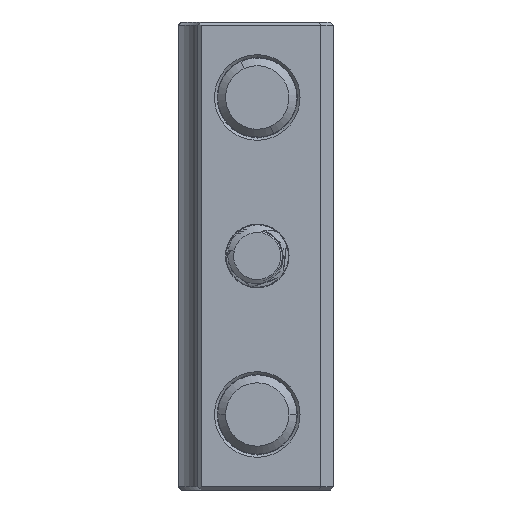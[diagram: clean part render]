
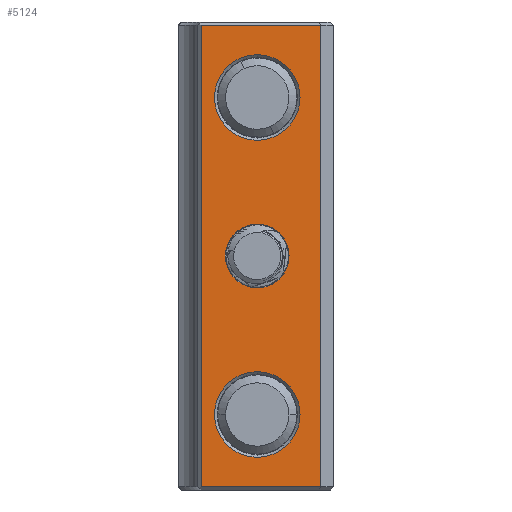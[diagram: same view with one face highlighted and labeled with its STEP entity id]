
A CAD part, left-side view. The second image highlights one B-rep face of the part: STEP entity #5124.
In plain terms, the highlighted planar face has unit normal (-1, 0, 0) as drawn and (1, 0, 0) by its records, which use the part's own axes.
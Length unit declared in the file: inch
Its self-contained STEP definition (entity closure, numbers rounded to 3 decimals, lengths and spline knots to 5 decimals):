
#494 = VECTOR ( 'NONE', #14407, 39.37008 ) ;
#523 = EDGE_CURVE ( 'NONE', #28910, #18502, #25480, .T. ) ;
#605 = VECTOR ( 'NONE', #9727, 39.37008 ) ;
#854 = DIRECTION ( 'NONE',  ( 1., 0., 0. ) ) ;
#1156 = DIRECTION ( 'NONE',  ( 0., 0., -1. ) ) ;
#1348 = LINE ( 'NONE', #5496, #7602 ) ;
#1399 = CARTESIAN_POINT ( 'NONE',  ( 0.98425, 0.48, 0.74638 ) ) ;
#1702 = EDGE_CURVE ( 'NONE', #19867, #27521, #25302, .T. ) ;
#1824 = EDGE_CURVE ( 'NONE', #27521, #19867, #11097, .T. ) ;
#1951 = AXIS2_PLACEMENT_3D ( 'NONE', #13883, #3046, #7050 ) ;
#2411 = DIRECTION ( 'NONE',  ( 1., 0., 0. ) ) ;
#2811 = EDGE_CURVE ( 'NONE', #14647, #28910, #1348, .T. ) ;
#2932 = DIRECTION ( 'NONE',  ( 0., 0., -1. ) ) ;
#2968 = VERTEX_POINT ( 'NONE', #16424 ) ;
#3046 = DIRECTION ( 'NONE',  ( -1., 0., 0. ) ) ;
#3433 = CARTESIAN_POINT ( 'NONE',  ( 0.98425, 0.48, 2.20638 ) ) ;
#4170 = DIRECTION ( 'NONE',  ( 0., 0., 1. ) ) ;
#4606 = AXIS2_PLACEMENT_3D ( 'NONE', #22736, #2411, #25253 ) ;
#5050 = CARTESIAN_POINT ( 'NONE',  ( 0.98425, 0.48, 0.20638 ) ) ;
#5124 = ADVANCED_FACE ( 'NONE', ( #8777, #11434, #22561, #15743 ), #15453, .F. ) ;
#5145 = CARTESIAN_POINT ( 'NONE',  ( 0.98425, 0., 2.93276 ) ) ;
#5299 = DIRECTION ( 'NONE',  ( 1., 0., 0. ) ) ;
#5344 = AXIS2_PLACEMENT_3D ( 'NONE', #5509, #28647, #14998 ) ;
#5386 = CARTESIAN_POINT ( 'NONE',  ( 0.98425, 0.08, 2.93276 ) ) ;
#5496 = CARTESIAN_POINT ( 'NONE',  ( 0.98425, 0.835, 2.93276 ) ) ;
#5509 = CARTESIAN_POINT ( 'NONE',  ( 0.98425, 0.48, 1.47638 ) ) ;
#6761 = EDGE_CURVE ( 'NONE', #17020, #14647, #11806, .T. ) ;
#7050 = DIRECTION ( 'NONE',  ( 0., 0., 1. ) ) ;
#7602 = VECTOR ( 'NONE', #14540, 39.37008 ) ;
#7725 = EDGE_LOOP ( 'NONE', ( #13989, #10197 ) ) ;
#8365 = EDGE_LOOP ( 'NONE', ( #16339, #29155 ) ) ;
#8694 = EDGE_CURVE ( 'NONE', #15322, #2968, #17408, .T. ) ;
#8777 = FACE_BOUND ( 'NONE', #7725, .T. ) ;
#9727 = DIRECTION ( 'NONE',  ( 0., 1., 0. ) ) ;
#9922 = AXIS2_PLACEMENT_3D ( 'NONE', #25325, #854, #1156 ) ;
#10197 = ORIENTED_EDGE ( 'NONE', *, *, #27741, .T. ) ;
#10484 = CIRCLE ( 'NONE', #1951, 0.20079 ) ;
#10825 = ORIENTED_EDGE ( 'NONE', *, *, #22750, .F. ) ;
#11097 = CIRCLE ( 'NONE', #16787, 0.27 ) ;
#11434 = FACE_BOUND ( 'NONE', #14091, .T. ) ;
#11534 = CARTESIAN_POINT ( 'NONE',  ( 0.98425, 0.48, 0.47638 ) ) ;
#11806 = LINE ( 'NONE', #25609, #605 ) ;
#12781 = CARTESIAN_POINT ( 'NONE',  ( 0.98425, 0.08, 0.02 ) ) ;
#13487 = VERTEX_POINT ( 'NONE', #22568 ) ;
#13883 = CARTESIAN_POINT ( 'NONE',  ( 0.98425, 0.48, 1.47638 ) ) ;
#13989 = ORIENTED_EDGE ( 'NONE', *, *, #24690, .T. ) ;
#13997 = CARTESIAN_POINT ( 'NONE',  ( 0.98425, 0.835, 0.02 ) ) ;
#14091 = EDGE_LOOP ( 'NONE', ( #14891, #10825 ) ) ;
#14407 = DIRECTION ( 'NONE',  ( 0., 0., -1. ) ) ;
#14540 = DIRECTION ( 'NONE',  ( 0., 0., 1. ) ) ;
#14552 = CARTESIAN_POINT ( 'NONE',  ( 0.98425, 0.08, 2.95276 ) ) ;
#14647 = VERTEX_POINT ( 'NONE', #13997 ) ;
#14891 = ORIENTED_EDGE ( 'NONE', *, *, #8694, .F. ) ;
#14998 = DIRECTION ( 'NONE',  ( 0., 0., 1. ) ) ;
#15246 = VECTOR ( 'NONE', #19108, 39.37008 ) ;
#15322 = VERTEX_POINT ( 'NONE', #3433 ) ;
#15409 = EDGE_CURVE ( 'NONE', #18502, #17020, #25838, .T. ) ;
#15453 = PLANE ( 'NONE',  #17272 ) ;
#15743 = FACE_OUTER_BOUND ( 'NONE', #27004, .T. ) ;
#16339 = ORIENTED_EDGE ( 'NONE', *, *, #1824, .F. ) ;
#16424 = CARTESIAN_POINT ( 'NONE',  ( 0.98425, 0.48, 2.74638 ) ) ;
#16462 = VERTEX_POINT ( 'NONE', #23652 ) ;
#16490 = ORIENTED_EDGE ( 'NONE', *, *, #15409, .T. ) ;
#16546 = ORIENTED_EDGE ( 'NONE', *, *, #6761, .T. ) ;
#16787 = AXIS2_PLACEMENT_3D ( 'NONE', #25632, #5299, #2932 ) ;
#17020 = VERTEX_POINT ( 'NONE', #12781 ) ;
#17272 = AXIS2_PLACEMENT_3D ( 'NONE', #24503, #17817, #4170 ) ;
#17408 = CIRCLE ( 'NONE', #4606, 0.27 ) ;
#17817 = DIRECTION ( 'NONE',  ( -1., 0., 0. ) ) ;
#17960 = CIRCLE ( 'NONE', #9922, 0.27 ) ;
#18133 = CIRCLE ( 'NONE', #5344, 0.20079 ) ;
#18502 = VERTEX_POINT ( 'NONE', #5386 ) ;
#19108 = DIRECTION ( 'NONE',  ( 0., -1., 0. ) ) ;
#19867 = VERTEX_POINT ( 'NONE', #1399 ) ;
#22561 = FACE_BOUND ( 'NONE', #8365, .T. ) ;
#22568 = CARTESIAN_POINT ( 'NONE',  ( 0.98425, 0.48, 1.27559 ) ) ;
#22736 = CARTESIAN_POINT ( 'NONE',  ( 0.98425, 0.48, 2.47638 ) ) ;
#22750 = EDGE_CURVE ( 'NONE', #2968, #15322, #17960, .T. ) ;
#22959 = DIRECTION ( 'NONE',  ( 1., 0., 0. ) ) ;
#23652 = CARTESIAN_POINT ( 'NONE',  ( 0.98425, 0.48, 1.67717 ) ) ;
#24503 = CARTESIAN_POINT ( 'NONE',  ( 0.98425, 0., 2.95276 ) ) ;
#24690 = EDGE_CURVE ( 'NONE', #16462, #13487, #10484, .T. ) ;
#24887 = DIRECTION ( 'NONE',  ( 0., 0., -1. ) ) ;
#25253 = DIRECTION ( 'NONE',  ( 0., 0., -1. ) ) ;
#25302 = CIRCLE ( 'NONE', #27651, 0.27 ) ;
#25325 = CARTESIAN_POINT ( 'NONE',  ( 0.98425, 0.48, 2.47638 ) ) ;
#25480 = LINE ( 'NONE', #5145, #15246 ) ;
#25609 = CARTESIAN_POINT ( 'NONE',  ( 0.98425, 0.98, 0.02 ) ) ;
#25632 = CARTESIAN_POINT ( 'NONE',  ( 0.98425, 0.48, 0.47638 ) ) ;
#25838 = LINE ( 'NONE', #14552, #494 ) ;
#26132 = ORIENTED_EDGE ( 'NONE', *, *, #2811, .T. ) ;
#26927 = CARTESIAN_POINT ( 'NONE',  ( 0.98425, 0.835, 2.93276 ) ) ;
#27004 = EDGE_LOOP ( 'NONE', ( #16546, #26132, #28814, #16490 ) ) ;
#27521 = VERTEX_POINT ( 'NONE', #5050 ) ;
#27651 = AXIS2_PLACEMENT_3D ( 'NONE', #11534, #22959, #24887 ) ;
#27741 = EDGE_CURVE ( 'NONE', #13487, #16462, #18133, .T. ) ;
#28647 = DIRECTION ( 'NONE',  ( -1., 0., 0. ) ) ;
#28814 = ORIENTED_EDGE ( 'NONE', *, *, #523, .T. ) ;
#28910 = VERTEX_POINT ( 'NONE', #26927 ) ;
#29155 = ORIENTED_EDGE ( 'NONE', *, *, #1702, .F. ) ;
